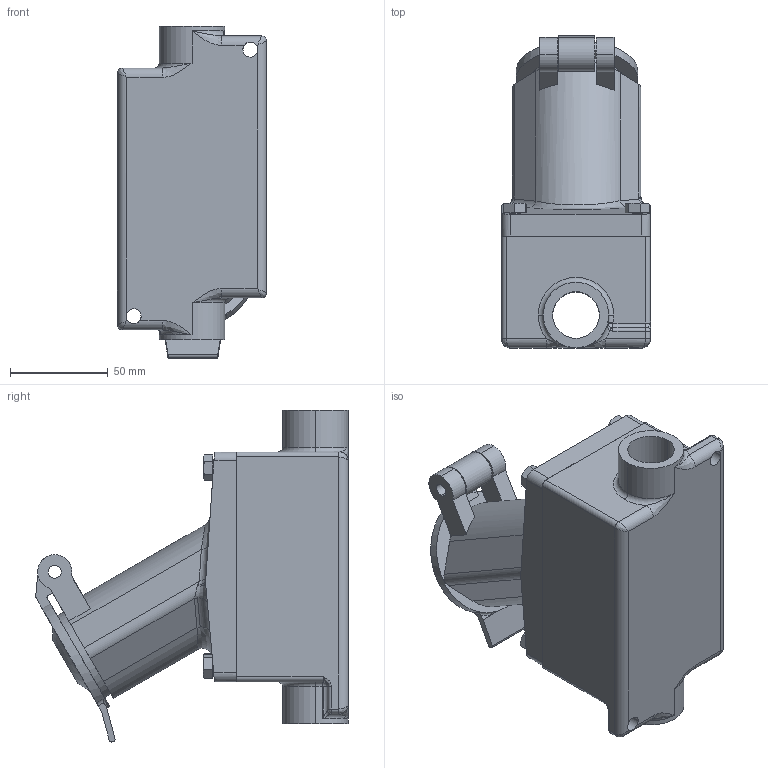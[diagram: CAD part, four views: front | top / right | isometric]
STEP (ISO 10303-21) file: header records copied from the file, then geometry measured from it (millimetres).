
FILE_DESCRIPTION (( 'STEP AP203' ), '1' );
FILE_NAME ('EPO-20A.STEP', '2018-03-21T16:06:53', ( '' ), ( '' ), 'SwSTEP 2.0', 'SolidWorks 2016', '' );
FILE_SCHEMA (( 'CONFIG_CONTROL_DESIGN' ));
Length unit declared in the file: inch
Products named in the file (1): EPO-20A
Bounding box: 76.2 x 159.65 x 169.64 mm (x, y, z)
Volume: 557216.5 mm3; surface area: 123795.9 mm2
Topology: 8 solids, 8 shells, 349 faces, 861 edges, 517 vertices
Faces by surface type: plane 125, cylinder 124, cone 48, bspline 27, torus 22, sphere 3
Entity records: 11855 total; most frequent: CARTESIAN_POINT 3840, ORIENTED_EDGE 1672, DIRECTION 1640, EDGE_CURVE 836, AXIS2_PLACEMENT_3D 625, VERTEX_POINT 517, VECTOR 390, LINE 390
